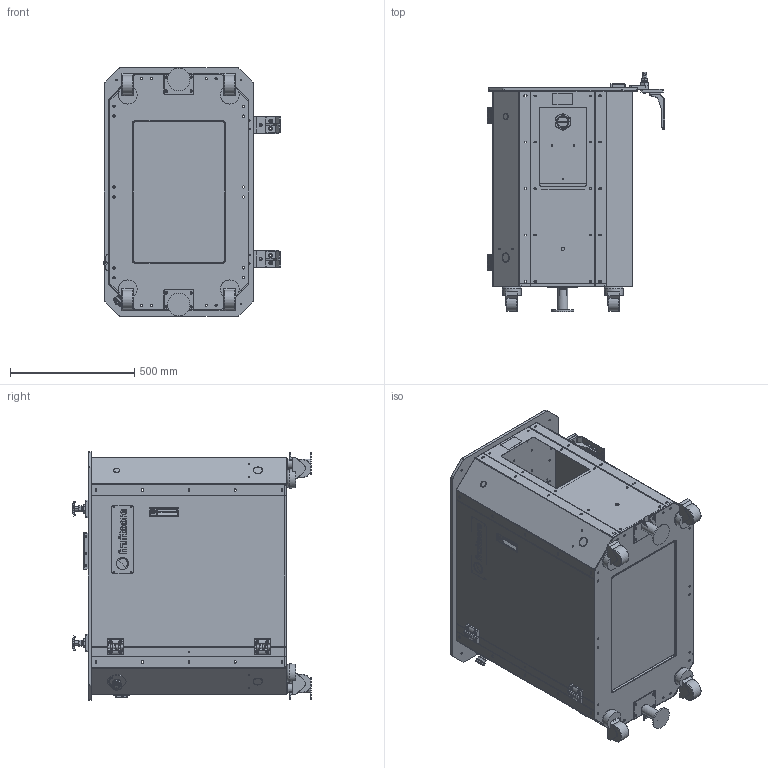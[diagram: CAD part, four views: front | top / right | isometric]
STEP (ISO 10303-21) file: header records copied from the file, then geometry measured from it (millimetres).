
FILE_DESCRIPTION (( 'STEP AP214' ), '1' );
FILE_NAME ('MRB_S_2021_06.STEP', '2021-05-27T06:47:00', ( '' ), ( '' ), 'SwSTEP 2.0', 'SolidWorks 2017', '' );
FILE_SCHEMA (( 'AUTOMOTIVE_DESIGN' ));
Length unit declared in the file: millimetre
Products named in the file (1): MRB_S_2021_06
Bounding box: 712.18 x 960.12 x 998 mm (x, y, z)
Surface area: 7403915 mm2 (no closed solid volume)
Topology: 0 solids, 97 shells, 3882 faces, 10840 edges, 7030 vertices
Faces by surface type: plane 1938, cylinder 1341, bspline 393, cone 165, torus 44, sphere 1
Full cylindrical faces by diameter (mm): 4.2 x4, 5 x15, 5.05 x8, 5.5 x16, 5.8 x4, 6.4 x10, 6.6 x12, 6.8 x66, 7 x8, 8.5 x4, 8.8 x8, 9 x45, 10 x8, 11 x8, 12 x2, 13.4 x1, 14 x4, 18.5 x2, 20.4 x1, 22 x2, 23.3 x1, 25 x1, 28 x1, 28.4 x1, 30 x1, 35 x4, 38 x2, 40 x3, 48.5 x1, 50 x1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
Entity records: 176533 total; most frequent: CARTESIAN_POINT 37624, ORIENTED_EDGE 19793, DIRECTION 18427, EDGE_CURVE 10384, VERTEX_POINT 6982, VECTOR 6357, LINE 6357, AXIS2_PLACEMENT_3D 6035
